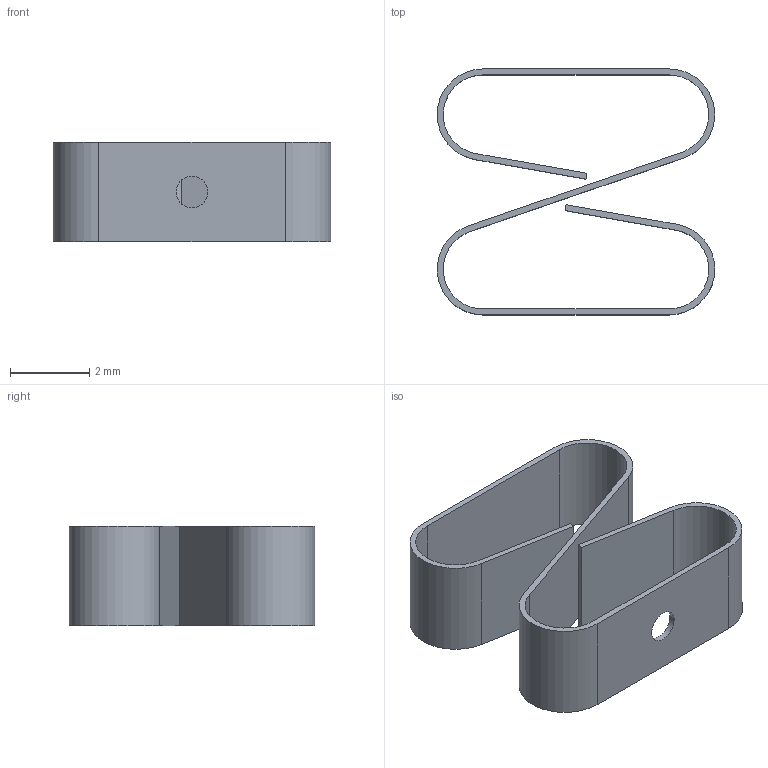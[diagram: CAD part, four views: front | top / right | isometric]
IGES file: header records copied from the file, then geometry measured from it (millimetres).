
Start section:  PTC IGES file: 8G2570062B.igs
Global section: file name: 8G2570062B.igs; native system: Creo Parametric by PTC Inc.; preprocessor: 2015200; author: jairo; organization: Unknown; date: 20180326.142101; units: millimetre
Bounding box: 7 x 6.2 x 2.5 mm (x, y, z)
Surface area: 176.2 mm2 (no closed solid volume)
Topology: 0 solids, 0 shells, 24 faces, 132 edges, 132 vertices
Faces by surface type: bspline 14, revolution 10
